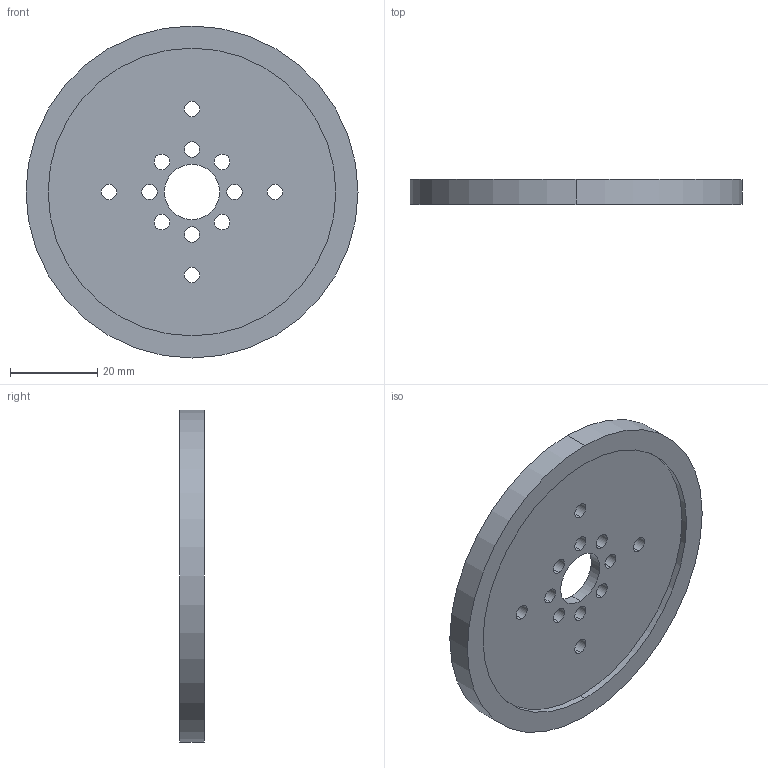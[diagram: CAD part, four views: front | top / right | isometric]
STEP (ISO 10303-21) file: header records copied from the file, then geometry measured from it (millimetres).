
FILE_DESCRIPTION (( 'STEP AP203' ), '1' );
FILE_NAME ('595729 assembly.STEP', '2016-08-25T16:23:15', ( '' ), ( '' ), 'SwSTEP 2.0', 'SolidWorks 2014', '' );
FILE_SCHEMA (( 'CONFIG_CONTROL_DESIGN' ));
Length unit declared in the file: inch
Products named in the file (3): 636104 for 3in precision disk wheel; 595729 wheel; 595729 assembly
Assembly tree (2 placements, depth 2):
  595729 assembly
    595729 wheel
    636104 for 3in precision disk wheel
Bounding box: 76.2 x 5.71 x 76.2 mm (x, y, z)
Volume: 15370.2 mm3; surface area: 15690 mm2
Topology: 2 solids, 2 shells, 42 faces, 108 edges, 72 vertices
Faces by surface type: cylinder 36, plane 6
Entity records: 1691 total; most frequent: DIRECTION 274, CARTESIAN_POINT 227, ORIENTED_EDGE 216, AXIS2_PLACEMENT_3D 119, EDGE_CURVE 108, CIRCLE 72, EDGE_LOOP 72, VERTEX_POINT 72
